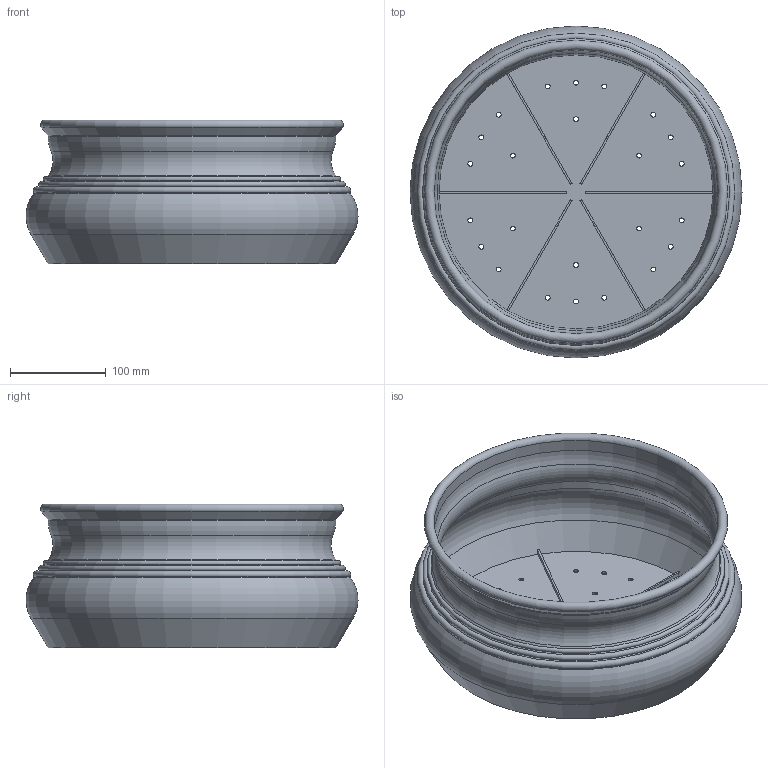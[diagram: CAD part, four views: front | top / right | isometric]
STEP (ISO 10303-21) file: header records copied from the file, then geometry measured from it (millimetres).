
FILE_DESCRIPTION(/* description */ (''),/* implementation_level */ '2;1');
FILE_NAME(/* name */ 'LR2406-S20-H150-D350_step.step',/* time_stamp */ '2024-02-01T11:01:46+01:00',/* author */ (''),/* organization */ (''),/* preprocessor_version */ 'ST-DEVELOPER v20',/* originating_system */ 'Autodesk Translation Framework v12.20.1.177',/* authorisation */ '');
FILE_SCHEMA (('AUTOMOTIVE_DESIGN { 1 0 10303 214 3 1 1 }'));
Length unit declared in the file: millimetre
Products named in the file (1): LR2406-S20-H150-D350
Bounding box: 345.99 x 345.99 x 150 mm (x, y, z)
Volume: 581555.7 mm3; surface area: 486034.9 mm2
Topology: 1 solids, 1 shells, 70 faces, 185 edges, 117 vertices
Faces by surface type: cylinder 32, plane 20, torus 10, cone 8
Full cylindrical faces by diameter (mm): 5 x24, 296 x1, 300 x1
Entity records: 2336 total; most frequent: DIRECTION 430, CARTESIAN_POINT 373, ORIENTED_EDGE 370, EDGE_CURVE 185, AXIS2_PLACEMENT_3D 174, EDGE_LOOP 118, VERTEX_POINT 117, CIRCLE 103
